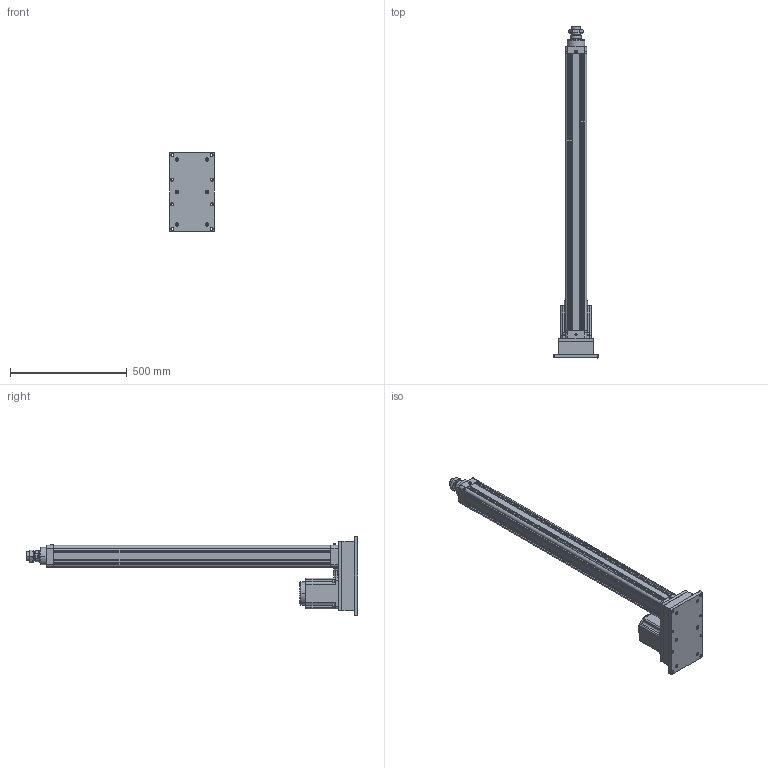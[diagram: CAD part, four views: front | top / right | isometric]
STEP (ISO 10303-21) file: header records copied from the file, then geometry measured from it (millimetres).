
FILE_DESCRIPTION((''),'2;1');
FILE_NAME('HE80-D-P_ASM','2020-04-23T',('ASUS20200'),(''),'CREO PARAMETRIC BY PTC INC, 2014190','CREO PARAMETRIC BY PTC INC, 2014190','');
FILE_SCHEMA(('CONFIG_CONTROL_DESIGN'));
Length unit declared in the file: millimetre
Products named in the file (25): HE80-D-P-001-X1; HE80-D-P-002-X1; HE80-D-P-003-X1; 30304J; YZ-M6X1; SLM-01; JDB506030; HE80-100-D-P-X1_ASM; HE80-P-010-X1-130N; 130ST-M10010; M10X25; HE80-P-009-X1-130N; HE80-P-013-X1-130N; TD-8; M8X35; M8X75; LM-M8-7-5; M10X1-25-40; LM-M10-30; LM-M10; HE80-D-P-005-X1; HE80-D-P-004-X1; HE80-D-P-008-X1; LGLM-M10-25; HE80-D-P_ASM
Assembly tree (45 placements, depth 3):
  HE80-D-P_ASM
    HE80-100-D-P-X1_ASM
      HE80-D-P-001-X1
      HE80-D-P-002-X1
      HE80-D-P-003-X1
      30304J  x2
      YZ-M6X1
      SLM-01
      JDB506030
    HE80-P-010-X1-130N
    130ST-M10010
    M10X25  x4
    HE80-P-009-X1-130N
    HE80-P-013-X1-130N
    TD-8  x4
    M8X35  x4
    M8X75  x6
    LM-M8-7-5  x4
    M10X1-25-40
    LM-M10-30
    LM-M10
    HE80-D-P-005-X1
    HE80-D-P-004-X1
    HE80-D-P-008-X1
    LGLM-M10-25  x4
Bounding box: 190 x 1424 x 340 mm (x, y, z)
Volume: 7911557.3 mm3; surface area: 2036839.6 mm2
Topology: 44 solids, 74 shells, 2046 faces, 4731 edges, 2861 vertices
Faces by surface type: plane 731, cone 626, cylinder 557, torus 102, sphere 26, bspline 4
Entity records: 45843 total; most frequent: CARTESIAN_POINT 8900, DIRECTION 8192, ORIENTED_EDGE 7076, EDGE_CURVE 3589, AXIS2_PLACEMENT_3D 3162, VERTEX_POINT 2174, VECTOR 1868, LINE 1868
